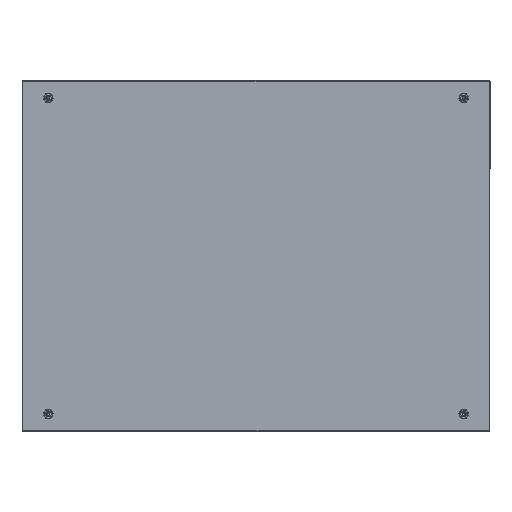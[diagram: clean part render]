
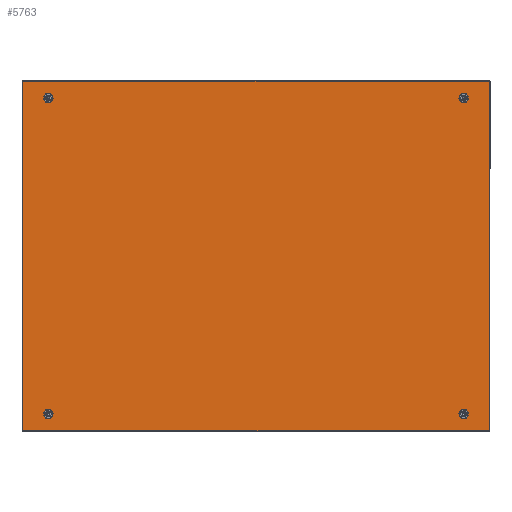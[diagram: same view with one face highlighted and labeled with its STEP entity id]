
A CAD part, left-side view. The second image highlights one B-rep face of the part: STEP entity #5763.
In plain terms, the highlighted planar face has unit normal (-1, 0, 0).
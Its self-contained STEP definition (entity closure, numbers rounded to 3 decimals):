
#471=CIRCLE('',#7639,5.125);
#473=CIRCLE('',#7642,5.125);
#475=CIRCLE('',#7645,5.125);
#476=CIRCLE('',#7674,5.125);
#1659=ORIENTED_EDGE('',*,*,#2655,.T.);
#1660=ORIENTED_EDGE('',*,*,#2656,.T.);
#1661=ORIENTED_EDGE('',*,*,#2657,.T.);
#1662=ORIENTED_EDGE('',*,*,#2658,.T.);
#1663=ORIENTED_EDGE('',*,*,#2553,.F.);
#1664=ORIENTED_EDGE('',*,*,#2555,.F.);
#1665=ORIENTED_EDGE('',*,*,#2557,.F.);
#1666=ORIENTED_EDGE('',*,*,#2659,.F.);
#2553=EDGE_CURVE('',#3155,#3155,#471,.T.);
#2555=EDGE_CURVE('',#3157,#3157,#473,.T.);
#2557=EDGE_CURVE('',#3159,#3159,#475,.T.);
#2655=EDGE_CURVE('',#3234,#3235,#3784,.T.);
#2656=EDGE_CURVE('',#3235,#3236,#3785,.T.);
#2657=EDGE_CURVE('',#3236,#3237,#3786,.T.);
#2658=EDGE_CURVE('',#3237,#3234,#3787,.T.);
#2659=EDGE_CURVE('',#3238,#3238,#476,.T.);
#3155=VERTEX_POINT('',#10605);
#3157=VERTEX_POINT('',#10610);
#3159=VERTEX_POINT('',#10615);
#3234=VERTEX_POINT('',#10816);
#3235=VERTEX_POINT('',#10817);
#3236=VERTEX_POINT('',#10819);
#3237=VERTEX_POINT('',#10821);
#3238=VERTEX_POINT('',#10824);
#3784=LINE('',#10815,#4336);
#3785=LINE('',#10818,#4337);
#3786=LINE('',#10820,#4338);
#3787=LINE('',#10822,#4339);
#4336=VECTOR('',#9090,1000.);
#4337=VECTOR('',#9091,1000.);
#4338=VECTOR('',#9092,1000.);
#4339=VECTOR('',#9093,1000.);
#4742=EDGE_LOOP('',(#1659,#1660,#1661,#1662));
#4743=EDGE_LOOP('',(#1663));
#4744=EDGE_LOOP('',(#1664));
#4745=EDGE_LOOP('',(#1665));
#4746=EDGE_LOOP('',(#1666));
#5164=FACE_BOUND('',#4742,.T.);
#5165=FACE_BOUND('',#4743,.T.);
#5166=FACE_BOUND('',#4744,.T.);
#5167=FACE_BOUND('',#4745,.T.);
#5168=FACE_BOUND('',#4746,.T.);
#5458=PLANE('',#7673);
#5763=ADVANCED_FACE('',(#5164,#5165,#5166,#5167,#5168),#5458,.T.);
#7639=AXIS2_PLACEMENT_3D('',#10604,#8923,#8924);
#7642=AXIS2_PLACEMENT_3D('',#10609,#8929,#8930);
#7645=AXIS2_PLACEMENT_3D('',#10614,#8935,#8936);
#7673=AXIS2_PLACEMENT_3D('',#10814,#9088,#9089);
#7674=AXIS2_PLACEMENT_3D('',#10823,#9094,#9095);
#8923=DIRECTION('',(-1.,0.,0.));
#8924=DIRECTION('',(0.,-1.,0.));
#8929=DIRECTION('',(-1.,0.,0.));
#8930=DIRECTION('',(0.,-1.,0.));
#8935=DIRECTION('',(-1.,0.,0.));
#8936=DIRECTION('',(0.,-1.,0.));
#9088=DIRECTION('',(-1.,0.,0.));
#9089=DIRECTION('',(0.,-1.,0.));
#9090=DIRECTION('',(0.,0.,-1.));
#9091=DIRECTION('',(0.,-1.,0.));
#9092=DIRECTION('',(0.,0.,1.));
#9093=DIRECTION('',(0.,1.,0.));
#9094=DIRECTION('',(-1.,0.,0.));
#9095=DIRECTION('',(0.,-1.,0.));
#10604=CARTESIAN_POINT('',(-1.2,355.,-270.));
#10605=CARTESIAN_POINT('',(-1.2,349.875,-270.));
#10609=CARTESIAN_POINT('',(-1.2,355.,270.));
#10610=CARTESIAN_POINT('',(-1.2,349.875,270.));
#10614=CARTESIAN_POINT('',(-1.2,-355.,-270.));
#10615=CARTESIAN_POINT('',(-1.2,-360.125,-270.));
#10814=CARTESIAN_POINT('',(-1.2,0.,0.));
#10815=CARTESIAN_POINT('',(-1.2,400.,0.));
#10816=CARTESIAN_POINT('',(-1.2,400.,300.));
#10817=CARTESIAN_POINT('',(-1.2,400.,-300.));
#10818=CARTESIAN_POINT('',(-1.2,0.,-300.));
#10819=CARTESIAN_POINT('',(-1.2,-400.,-300.));
#10820=CARTESIAN_POINT('',(-1.2,-400.,0.));
#10821=CARTESIAN_POINT('',(-1.2,-400.,300.));
#10822=CARTESIAN_POINT('',(-1.2,0.,300.));
#10823=CARTESIAN_POINT('',(-1.2,-355.,270.));
#10824=CARTESIAN_POINT('',(-1.2,-360.125,270.));
